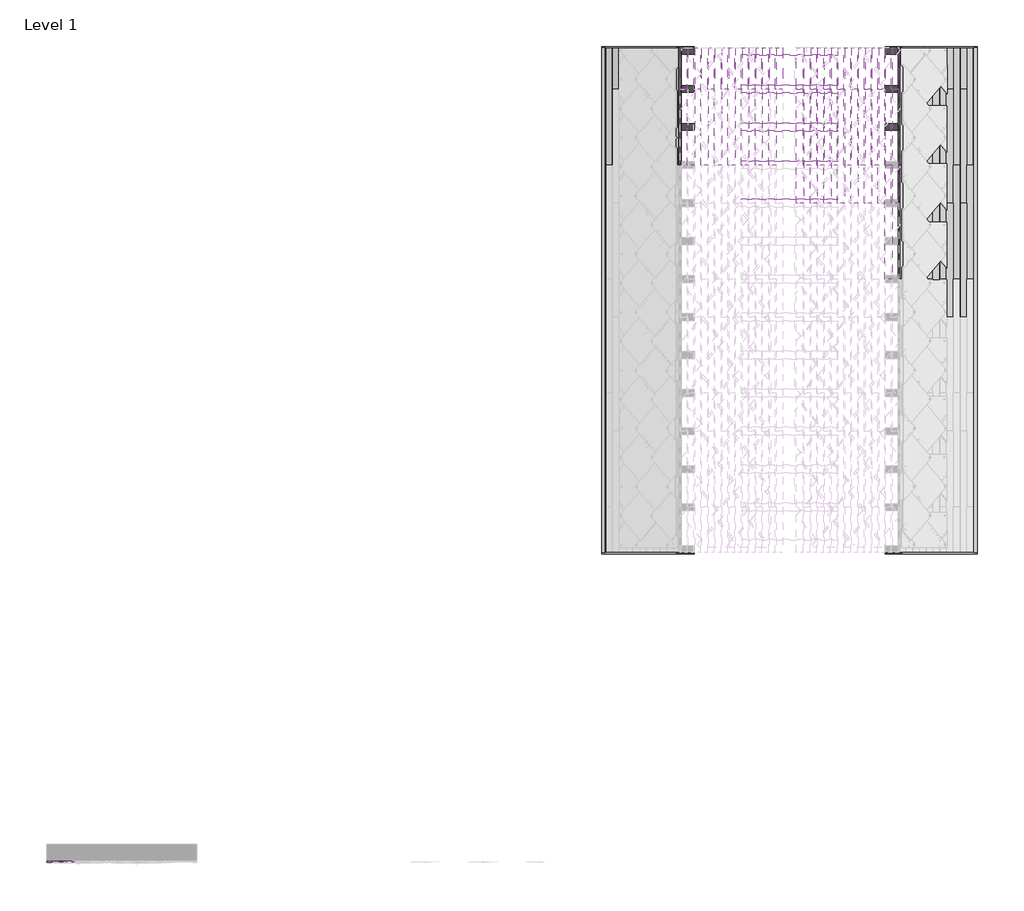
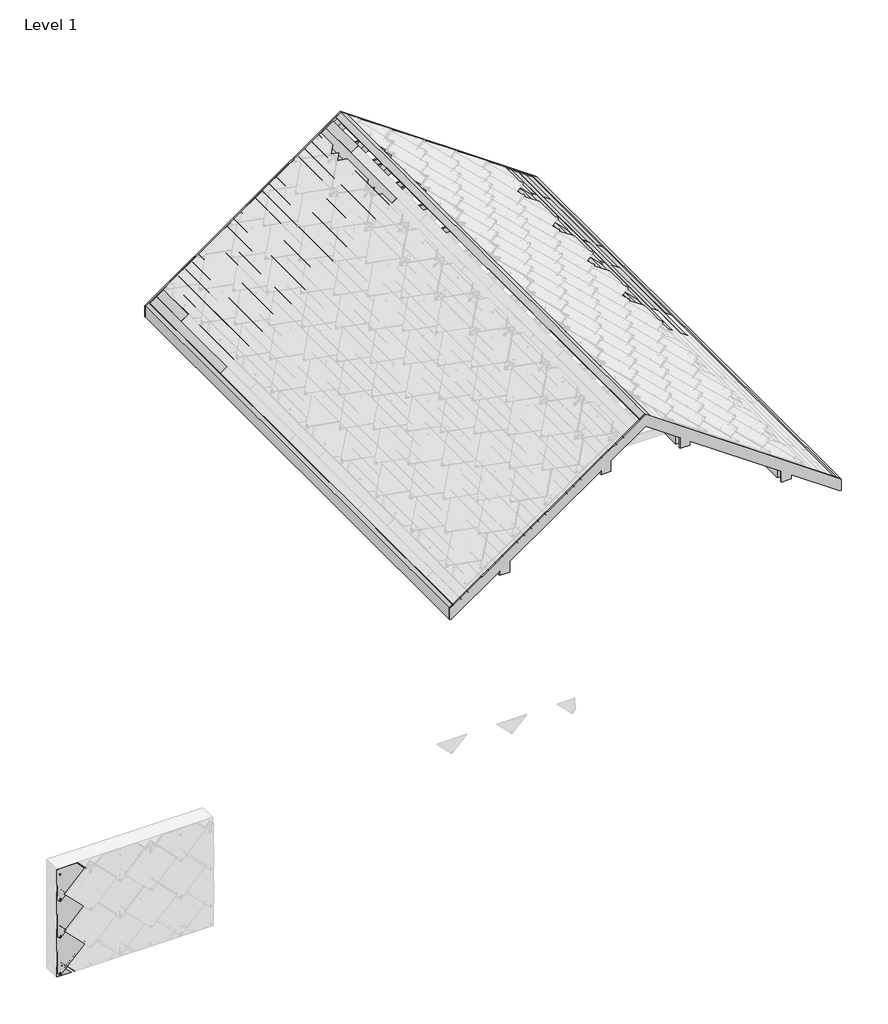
# One storey, part 3 of 6: 99 beams, 4 proxies.
"""IFC4 building model written with IfcOpenShell, lengths in millimetres."""

from ifc_helpers import new_model, si_unit, origin, place, context, project, spatial, transform, mapped, element, save
from components import structural_framing_1_structural_framing_1_4f4e03de, structural_framing_104_structural_framing_15_200a1adf, structural_framing_105_structural_framing_15_bbb8b2a2, structural_framing_150_structural_framing_15_f334a7cf, structural_framing_151_structural_framing_15_911aee75, structural_framing_152_structural_framing_15_fae30983, structural_framing_154_structural_framing_15_ddedf780, structural_framing_156_structural_framing_15_8572bb24, structural_framing_164_structural_framing_15_c8a2bcaa, structural_framing_155_structural_framing_15_fbad98d9, structural_framing_161_structural_framing_15_e03e88da, structural_framing_290_structural_framing_15_fb813978, structural_framing_291_structural_framing_15_41421fa0, structural_framing_293_structural_framing_15_7859e044, structural_framing_294_structural_framing_15_d6bc8154, structural_framing_295_structural_framing_295_6c3cb5e9, structural_framing_296_structural_framing_296_04115515, structural_framing_298_structural_framing_296_1c13a3da, structural_framing_321_structural_framing_321_e100f737, structural_framing_323_structural_framing_323_020c7994, structural_framing_324_structural_framing_323_6074106b, corner_bottom_small_left_black_798ab3c3, corner_top_big_left_black_ba74b52e, roofing_panels_sunstyle_tile_shingle_left_shingle_left_8a958c8d

model = new_model("IFC4")

# Units and contexts
model_context = context("Model", 3, world=origin())
ifc_project = project(units=[si_unit("LENGTHUNIT", "METRE", prefix="MILLI")], contexts=[model_context])

# Site, building, storey
site = spatial("IfcSite", under=ifc_project)
building = spatial("IfcBuilding", under=site)
storey = spatial("IfcBuildingStorey", under=building, Name="Level 1", Elevation=0.0)

# Beams
placement = place(None, origin())
structural_framing_1_structural_framing_1_shape = structural_framing_1_structural_framing_1_4f4e03de(model_context)
element("IfcBeam", 1, ObjectType="Structural Framing 1 : Structural Framing 1", at=placement, inside=storey, context=model_context, shape_type="MappedRepresentation", body=[
    mapped(structural_framing_1_structural_framing_1_shape, transform((57.4878711, 0.0, 0.0), x_axis=(1.0, 0.0, 0.0), y_axis=(0.0, 1.0, 0.0), z_axis=(0.0, 0.0, 1.0))),
])
structural_framing_104_structural_framing_15_shape = structural_framing_104_structural_framing_15_200a1adf(model_context)
element("IfcBeam", 2, ObjectType="Structural Framing 104 : Structural Framing 15", at=placement, inside=storey, context=model_context, shape_type="MappedRepresentation", body=[
    mapped(structural_framing_104_structural_framing_15_shape, transform((-2370.3637404, 0.0, -1700.0), x_axis=(1.0, 0.0, 0.0), y_axis=(0.0, 1.0, 0.0), z_axis=(0.0, 0.0, 1.0))),
])
structural_framing_105_structural_framing_15_shape = structural_framing_105_structural_framing_15_bbb8b2a2(model_context)
element("IfcBeam", 3, ObjectType="Structural Framing 105 : Structural Framing 15", at=placement, inside=storey, context=model_context, shape_type="MappedRepresentation", body=[
    mapped(structural_framing_105_structural_framing_15_shape, transform((-2513.178541, 0.0, -1800.0), x_axis=(1.0, 0.0, 0.0), y_axis=(0.0, 1.0, 0.0), z_axis=(0.0, 0.0, 1.0))),
])
element("IfcBeam", 4, ObjectType="Structural Framing 114 : Structural Framing 15", at=placement, inside=storey, context=model_context, shape_type="MappedRepresentation", body=[
    mapped(structural_framing_104_structural_framing_15_shape, transform((-2655.9933417, 0.0, -1900.0), x_axis=(1.0, 0.0, 0.0), y_axis=(0.0, 1.0, 0.0), z_axis=(0.0, 0.0, 1.0))),
])
element("IfcBeam", 5, ObjectType="Structural Framing 115 : Structural Framing 15", at=placement, inside=storey, context=model_context, shape_type="MappedRepresentation", body=[
    mapped(structural_framing_105_structural_framing_15_shape, transform((-2798.8081424, 0.0, -2000.0), x_axis=(1.0, 0.0, 0.0), y_axis=(0.0, 1.0, 0.0), z_axis=(0.0, 0.0, 1.0))),
])
element("IfcBeam", 6, ObjectType="Structural Framing 124 : Structural Framing 15", at=placement, inside=storey, context=model_context, shape_type="MappedRepresentation", body=[
    mapped(structural_framing_104_structural_framing_15_shape, transform((-2941.622943, 0.0, -2100.0), x_axis=(1.0, 0.0, 0.0), y_axis=(0.0, 1.0, 0.0), z_axis=(0.0, 0.0, 1.0))),
])
element("IfcBeam", 7, ObjectType="Structural Framing 125 : Structural Framing 15", at=placement, inside=storey, context=model_context, shape_type="MappedRepresentation", body=[
    mapped(structural_framing_105_structural_framing_15_shape, transform((-3084.4377437, 0.0, -2200.0), x_axis=(1.0, 0.0, 0.0), y_axis=(0.0, 1.0, 0.0), z_axis=(0.0, 0.0, 1.0))),
])
element("IfcBeam", 8, ObjectType="Structural Framing 134 : Structural Framing 15", at=placement, inside=storey, context=model_context, shape_type="MappedRepresentation", body=[
    mapped(structural_framing_104_structural_framing_15_shape, transform((-3227.2525444, 0.0, -2300.0), x_axis=(1.0, 0.0, 0.0), y_axis=(0.0, 1.0, 0.0), z_axis=(0.0, 0.0, 1.0))),
])
element("IfcBeam", 9, ObjectType="Structural Framing 135 : Structural Framing 15", at=placement, inside=storey, context=model_context, shape_type="MappedRepresentation", body=[
    mapped(structural_framing_105_structural_framing_15_shape, transform((-3370.0673451, 0.0, -2400.0), x_axis=(1.0, 0.0, 0.0), y_axis=(0.0, 1.0, 0.0), z_axis=(0.0, 0.0, 1.0))),
])
element("IfcBeam", 10, ObjectType="Structural Framing 144 : Structural Framing 15", at=placement, inside=storey, context=model_context, shape_type="MappedRepresentation", body=[
    mapped(structural_framing_104_structural_framing_15_shape, transform((-3512.8821457, 0.0, -2500.0), x_axis=(1.0, 0.0, 0.0), y_axis=(0.0, 1.0, 0.0), z_axis=(0.0, 0.0, 1.0))),
])
element("IfcBeam", 11, ObjectType="Structural Framing 145 : Structural Framing 15", at=placement, inside=storey, context=model_context, shape_type="MappedRepresentation", body=[
    mapped(structural_framing_105_structural_framing_15_shape, transform((-3655.6969464, 0.0, -2600.0), x_axis=(1.0, 0.0, 0.0), y_axis=(0.0, 1.0, 0.0), z_axis=(0.0, 0.0, 1.0))),
])
structural_framing_150_structural_framing_15_shape = structural_framing_150_structural_framing_15_f334a7cf(model_context)
element("IfcBeam", 12, ObjectType="Structural Framing 150 : Structural Framing 15", at=placement, inside=storey, context=model_context, shape_type="MappedRepresentation", body=[
    mapped(structural_framing_150_structural_framing_15_shape, transform((57.4878711, 0.0, 0.0), x_axis=(1.0, 0.0, 0.0), y_axis=(0.0, 1.0, 0.0), z_axis=(0.0, 0.0, 1.0))),
])
structural_framing_151_structural_framing_15_shape = structural_framing_151_structural_framing_15_911aee75(model_context)
element("IfcBeam", 13, ObjectType="Structural Framing 151 : Structural Framing 15", at=placement, inside=storey, context=model_context, shape_type="MappedRepresentation", body=[
    mapped(structural_framing_151_structural_framing_15_shape, transform((57.4878711, 2367.5, 0.0), x_axis=(1.0, 0.0, 0.0), y_axis=(0.0, 1.0, 0.0), z_axis=(0.0, 0.0, 1.0))),
])
structural_framing_152_structural_framing_15_shape = structural_framing_152_structural_framing_15_fae30983(model_context)
element("IfcBeam", 14, ObjectType="Structural Framing 152 : Structural Framing 15", at=placement, inside=storey, context=model_context, shape_type="MappedRepresentation", body=[
    mapped(structural_framing_152_structural_framing_15_shape, transform((57.4878711, 4837.5, 0.0), x_axis=(1.0, 0.0, 0.0), y_axis=(0.0, 1.0, 0.0), z_axis=(0.0, 0.0, 1.0))),
])
element("IfcBeam", 15, ObjectType="Structural Framing 153 : Structural Framing 15", at=placement, inside=storey, context=model_context, shape_type="MappedRepresentation", body=[
    mapped(structural_framing_152_structural_framing_15_shape, transform((57.4878711, 7237.5, 0.0), x_axis=(1.0, 0.0, 0.0), y_axis=(0.0, 1.0, 0.0), z_axis=(0.0, 0.0, 1.0))),
])
structural_framing_154_structural_framing_15_shape = structural_framing_154_structural_framing_15_ddedf780(model_context)
element("IfcBeam", 16, ObjectType="Structural Framing 154 : Structural Framing 15", at=placement, inside=storey, context=model_context, shape_type="MappedRepresentation", body=[
    mapped(structural_framing_154_structural_framing_15_shape, transform((57.4878711, 9637.5, 0.0), x_axis=(1.0, 0.0, 0.0), y_axis=(0.0, 1.0, 0.0), z_axis=(0.0, 0.0, 1.0))),
])
structural_framing_156_structural_framing_15_shape = structural_framing_156_structural_framing_15_8572bb24(model_context)
element("IfcBeam", 17, ObjectType="Structural Framing 160 : Structural Framing 15", at=placement, inside=storey, context=model_context, shape_type="MappedRepresentation", body=[
    mapped(structural_framing_156_structural_framing_15_shape, transform((200.3026718, -870.0, -100.0), x_axis=(1.0, 0.0, 0.0), y_axis=(0.0, 1.0, 0.0), z_axis=(0.0, 0.0, 1.0))),
])
structural_framing_164_structural_framing_15_shape = structural_framing_164_structural_framing_15_c8a2bcaa(model_context)
element("IfcBeam", 18, ObjectType="Structural Framing 164 : Structural Framing 15", at=placement, inside=storey, context=model_context, shape_type="MappedRepresentation", body=[
    mapped(structural_framing_164_structural_framing_15_shape, transform((200.3026718, 0.0, -100.0), x_axis=(1.0, 0.0, 0.0), y_axis=(0.0, 1.0, 0.0), z_axis=(0.0, 0.0, 1.0))),
])
structural_framing_155_structural_framing_15_shape = structural_framing_155_structural_framing_15_fbad98d9(model_context)
element("IfcBeam", 19, ObjectType="Structural Framing 165 : Structural Framing 15", at=placement, inside=storey, context=model_context, shape_type="MappedRepresentation", body=[
    mapped(structural_framing_155_structural_framing_15_shape, transform((343.1174725, 0.0, -200.0), x_axis=(1.0, 0.0, 0.0), y_axis=(0.0, 1.0, 0.0), z_axis=(0.0, 0.0, 1.0))),
])
element("IfcBeam", 20, ObjectType="Structural Framing 170 : Structural Framing 15", at=placement, inside=storey, context=model_context, shape_type="MappedRepresentation", body=[
    mapped(structural_framing_156_structural_framing_15_shape, transform((485.9322731, -870.0, -300.0), x_axis=(1.0, 0.0, 0.0), y_axis=(0.0, 1.0, 0.0), z_axis=(0.0, 0.0, 1.0))),
])
element("IfcBeam", 21, ObjectType="Structural Framing 174 : Structural Framing 15", at=placement, inside=storey, context=model_context, shape_type="MappedRepresentation", body=[
    mapped(structural_framing_164_structural_framing_15_shape, transform((485.9322731, 0.0, -300.0), x_axis=(1.0, 0.0, 0.0), y_axis=(0.0, 1.0, 0.0), z_axis=(0.0, 0.0, 1.0))),
])
element("IfcBeam", 22, ObjectType="Structural Framing 175 : Structural Framing 15", at=placement, inside=storey, context=model_context, shape_type="MappedRepresentation", body=[
    mapped(structural_framing_155_structural_framing_15_shape, transform((628.7470738, 0.0, -400.0), x_axis=(1.0, 0.0, 0.0), y_axis=(0.0, 1.0, 0.0), z_axis=(0.0, 0.0, 1.0))),
])
element("IfcBeam", 23, ObjectType="Structural Framing 180 : Structural Framing 15", at=placement, inside=storey, context=model_context, shape_type="MappedRepresentation", body=[
    mapped(structural_framing_156_structural_framing_15_shape, transform((771.5618745, -870.0, -500.0), x_axis=(1.0, 0.0, 0.0), y_axis=(0.0, 1.0, 0.0), z_axis=(0.0, 0.0, 1.0))),
])
element("IfcBeam", 24, ObjectType="Structural Framing 184 : Structural Framing 15", at=placement, inside=storey, context=model_context, shape_type="MappedRepresentation", body=[
    mapped(structural_framing_164_structural_framing_15_shape, transform((771.5618745, 0.0, -500.0), x_axis=(1.0, 0.0, 0.0), y_axis=(0.0, 1.0, 0.0), z_axis=(0.0, 0.0, 1.0))),
])
element("IfcBeam", 25, ObjectType="Structural Framing 185 : Structural Framing 15", at=placement, inside=storey, context=model_context, shape_type="MappedRepresentation", body=[
    mapped(structural_framing_155_structural_framing_15_shape, transform((914.3766752, 0.0, -600.0), x_axis=(1.0, 0.0, 0.0), y_axis=(0.0, 1.0, 0.0), z_axis=(0.0, 0.0, 1.0))),
])
element("IfcBeam", 26, ObjectType="Structural Framing 190 : Structural Framing 15", at=placement, inside=storey, context=model_context, shape_type="MappedRepresentation", body=[
    mapped(structural_framing_156_structural_framing_15_shape, transform((1057.1914758, -870.0, -700.0), x_axis=(1.0, 0.0, 0.0), y_axis=(0.0, 1.0, 0.0), z_axis=(0.0, 0.0, 1.0))),
])
element("IfcBeam", 27, ObjectType="Structural Framing 194 : Structural Framing 15", at=placement, inside=storey, context=model_context, shape_type="MappedRepresentation", body=[
    mapped(structural_framing_164_structural_framing_15_shape, transform((1057.1914758, 0.0, -700.0), x_axis=(1.0, 0.0, 0.0), y_axis=(0.0, 1.0, 0.0), z_axis=(0.0, 0.0, 1.0))),
])
element("IfcBeam", 28, ObjectType="Structural Framing 195 : Structural Framing 15", at=placement, inside=storey, context=model_context, shape_type="MappedRepresentation", body=[
    mapped(structural_framing_155_structural_framing_15_shape, transform((1200.0062765, 0.0, -800.0), x_axis=(1.0, 0.0, 0.0), y_axis=(0.0, 1.0, 0.0), z_axis=(0.0, 0.0, 1.0))),
])
element("IfcBeam", 29, ObjectType="Structural Framing 2 : Structural Framing 1", at=placement, inside=storey, context=model_context, shape_type="MappedRepresentation", body=[
    mapped(structural_framing_1_structural_framing_1_shape, transform((57.4878711, -800.0, 0.0), x_axis=(1.0, 0.0, 0.0), y_axis=(0.0, 1.0, 0.0), z_axis=(0.0, 0.0, 1.0))),
])
element("IfcBeam", 30, ObjectType="Structural Framing 200 : Structural Framing 15", at=placement, inside=storey, context=model_context, shape_type="MappedRepresentation", body=[
    mapped(structural_framing_156_structural_framing_15_shape, transform((1342.8210772, -870.0, -900.0), x_axis=(1.0, 0.0, 0.0), y_axis=(0.0, 1.0, 0.0), z_axis=(0.0, 0.0, 1.0))),
])
element("IfcBeam", 31, ObjectType="Structural Framing 204 : Structural Framing 15", at=placement, inside=storey, context=model_context, shape_type="MappedRepresentation", body=[
    mapped(structural_framing_164_structural_framing_15_shape, transform((1342.8210772, 0.0, -900.0), x_axis=(1.0, 0.0, 0.0), y_axis=(0.0, 1.0, 0.0), z_axis=(0.0, 0.0, 1.0))),
])
element("IfcBeam", 32, ObjectType="Structural Framing 205 : Structural Framing 15", at=placement, inside=storey, context=model_context, shape_type="MappedRepresentation", body=[
    mapped(structural_framing_155_structural_framing_15_shape, transform((1485.6358779, 0.0, -1000.0), x_axis=(1.0, 0.0, 0.0), y_axis=(0.0, 1.0, 0.0), z_axis=(0.0, 0.0, 1.0))),
])
element("IfcBeam", 33, ObjectType="Structural Framing 210 : Structural Framing 15", at=placement, inside=storey, context=model_context, shape_type="MappedRepresentation", body=[
    mapped(structural_framing_156_structural_framing_15_shape, transform((1628.4506785, -870.0, -1100.0), x_axis=(1.0, 0.0, 0.0), y_axis=(0.0, 1.0, 0.0), z_axis=(0.0, 0.0, 1.0))),
])
element("IfcBeam", 34, ObjectType="Structural Framing 214 : Structural Framing 15", at=placement, inside=storey, context=model_context, shape_type="MappedRepresentation", body=[
    mapped(structural_framing_164_structural_framing_15_shape, transform((1628.4506785, 0.0, -1100.0), x_axis=(1.0, 0.0, 0.0), y_axis=(0.0, 1.0, 0.0), z_axis=(0.0, 0.0, 1.0))),
])
element("IfcBeam", 35, ObjectType="Structural Framing 215 : Structural Framing 15", at=placement, inside=storey, context=model_context, shape_type="MappedRepresentation", body=[
    mapped(structural_framing_155_structural_framing_15_shape, transform((1771.2654792, 0.0, -1200.0), x_axis=(1.0, 0.0, 0.0), y_axis=(0.0, 1.0, 0.0), z_axis=(0.0, 0.0, 1.0))),
])
element("IfcBeam", 36, ObjectType="Structural Framing 220 : Structural Framing 15", at=placement, inside=storey, context=model_context, shape_type="MappedRepresentation", body=[
    mapped(structural_framing_156_structural_framing_15_shape, transform((1914.0802799, -870.0, -1300.0), x_axis=(1.0, 0.0, 0.0), y_axis=(0.0, 1.0, 0.0), z_axis=(0.0, 0.0, 1.0))),
])
element("IfcBeam", 37, ObjectType="Structural Framing 224 : Structural Framing 15", at=placement, inside=storey, context=model_context, shape_type="MappedRepresentation", body=[
    mapped(structural_framing_164_structural_framing_15_shape, transform((1914.0802799, 0.0, -1300.0), x_axis=(1.0, 0.0, 0.0), y_axis=(0.0, 1.0, 0.0), z_axis=(0.0, 0.0, 1.0))),
])
element("IfcBeam", 38, ObjectType="Structural Framing 225 : Structural Framing 15", at=placement, inside=storey, context=model_context, shape_type="MappedRepresentation", body=[
    mapped(structural_framing_155_structural_framing_15_shape, transform((2056.8950805, 0.0, -1400.0), x_axis=(1.0, 0.0, 0.0), y_axis=(0.0, 1.0, 0.0), z_axis=(0.0, 0.0, 1.0))),
])
element("IfcBeam", 39, ObjectType="Structural Framing 226 : Structural Framing 15", at=placement, inside=storey, context=model_context, shape_type="MappedRepresentation", body=[
    mapped(structural_framing_156_structural_framing_15_shape, transform((2056.8950805, -2470.0, -1400.0), x_axis=(1.0, 0.0, 0.0), y_axis=(0.0, 1.0, 0.0), z_axis=(0.0, 0.0, 1.0))),
])
element("IfcBeam", 40, ObjectType="Structural Framing 230 : Structural Framing 15", at=placement, inside=storey, context=model_context, shape_type="MappedRepresentation", body=[
    mapped(structural_framing_156_structural_framing_15_shape, transform((2199.7098812, -870.0, -1500.0), x_axis=(1.0, 0.0, 0.0), y_axis=(0.0, 1.0, 0.0), z_axis=(0.0, 0.0, 1.0))),
])
element("IfcBeam", 41, ObjectType="Structural Framing 234 : Structural Framing 15", at=placement, inside=storey, context=model_context, shape_type="MappedRepresentation", body=[
    mapped(structural_framing_164_structural_framing_15_shape, transform((2199.7098812, 0.0, -1500.0), x_axis=(1.0, 0.0, 0.0), y_axis=(0.0, 1.0, 0.0), z_axis=(0.0, 0.0, 1.0))),
])
element("IfcBeam", 42, ObjectType="Structural Framing 235 : Structural Framing 15", at=placement, inside=storey, context=model_context, shape_type="MappedRepresentation", body=[
    mapped(structural_framing_155_structural_framing_15_shape, transform((2342.5246819, 0.0, -1600.0), x_axis=(1.0, 0.0, 0.0), y_axis=(0.0, 1.0, 0.0), z_axis=(0.0, 0.0, 1.0))),
])
element("IfcBeam", 43, ObjectType="Structural Framing 236 : Structural Framing 15", at=placement, inside=storey, context=model_context, shape_type="MappedRepresentation", body=[
    mapped(structural_framing_156_structural_framing_15_shape, transform((2342.5246819, -2470.0, -1600.0), x_axis=(1.0, 0.0, 0.0), y_axis=(0.0, 1.0, 0.0), z_axis=(0.0, 0.0, 1.0))),
])
element("IfcBeam", 44, ObjectType="Structural Framing 24 : Structural Framing 15", at=placement, inside=storey, context=model_context, shape_type="MappedRepresentation", body=[
    mapped(structural_framing_104_structural_framing_15_shape, transform((-85.3269296, 0.0, -100.0), x_axis=(1.0, 0.0, 0.0), y_axis=(0.0, 1.0, 0.0), z_axis=(0.0, 0.0, 1.0))),
])
element("IfcBeam", 45, ObjectType="Structural Framing 240 : Structural Framing 15", at=placement, inside=storey, context=model_context, shape_type="MappedRepresentation", body=[
    mapped(structural_framing_156_structural_framing_15_shape, transform((2485.3394826, -870.0, -1700.0), x_axis=(1.0, 0.0, 0.0), y_axis=(0.0, 1.0, 0.0), z_axis=(0.0, 0.0, 1.0))),
])
element("IfcBeam", 46, ObjectType="Structural Framing 244 : Structural Framing 15", at=placement, inside=storey, context=model_context, shape_type="MappedRepresentation", body=[
    mapped(structural_framing_164_structural_framing_15_shape, transform((2485.3394826, 0.0, -1700.0), x_axis=(1.0, 0.0, 0.0), y_axis=(0.0, 1.0, 0.0), z_axis=(0.0, 0.0, 1.0))),
])
element("IfcBeam", 47, ObjectType="Structural Framing 245 : Structural Framing 15", at=placement, inside=storey, context=model_context, shape_type="MappedRepresentation", body=[
    mapped(structural_framing_155_structural_framing_15_shape, transform((2628.1542832, 0.0, -1800.0), x_axis=(1.0, 0.0, 0.0), y_axis=(0.0, 1.0, 0.0), z_axis=(0.0, 0.0, 1.0))),
])
element("IfcBeam", 48, ObjectType="Structural Framing 246 : Structural Framing 15", at=placement, inside=storey, context=model_context, shape_type="MappedRepresentation", body=[
    mapped(structural_framing_156_structural_framing_15_shape, transform((2628.1542832, -2470.0, -1800.0), x_axis=(1.0, 0.0, 0.0), y_axis=(0.0, 1.0, 0.0), z_axis=(0.0, 0.0, 1.0))),
])
element("IfcBeam", 49, ObjectType="Structural Framing 25 : Structural Framing 15", at=placement, inside=storey, context=model_context, shape_type="MappedRepresentation", body=[
    mapped(structural_framing_105_structural_framing_15_shape, transform((-228.1417302, 0.0, -200.0), x_axis=(1.0, 0.0, 0.0), y_axis=(0.0, 1.0, 0.0), z_axis=(0.0, 0.0, 1.0))),
])
element("IfcBeam", 50, ObjectType="Structural Framing 250 : Structural Framing 15", at=placement, inside=storey, context=model_context, shape_type="MappedRepresentation", body=[
    mapped(structural_framing_156_structural_framing_15_shape, transform((2770.9690839, -870.0, -1900.0), x_axis=(1.0, 0.0, 0.0), y_axis=(0.0, 1.0, 0.0), z_axis=(0.0, 0.0, 1.0))),
])
element("IfcBeam", 51, ObjectType="Structural Framing 254 : Structural Framing 15", at=placement, inside=storey, context=model_context, shape_type="MappedRepresentation", body=[
    mapped(structural_framing_164_structural_framing_15_shape, transform((2770.9690839, 0.0, -1900.0), x_axis=(1.0, 0.0, 0.0), y_axis=(0.0, 1.0, 0.0), z_axis=(0.0, 0.0, 1.0))),
])
element("IfcBeam", 52, ObjectType="Structural Framing 255 : Structural Framing 15", at=placement, inside=storey, context=model_context, shape_type="MappedRepresentation", body=[
    mapped(structural_framing_155_structural_framing_15_shape, transform((2913.7838846, 0.0, -2000.0), x_axis=(1.0, 0.0, 0.0), y_axis=(0.0, 1.0, 0.0), z_axis=(0.0, 0.0, 1.0))),
])
element("IfcBeam", 53, ObjectType="Structural Framing 256 : Structural Framing 15", at=placement, inside=storey, context=model_context, shape_type="MappedRepresentation", body=[
    mapped(structural_framing_156_structural_framing_15_shape, transform((2913.7838846, -2470.0, -2000.0), x_axis=(1.0, 0.0, 0.0), y_axis=(0.0, 1.0, 0.0), z_axis=(0.0, 0.0, 1.0))),
])
element("IfcBeam", 54, ObjectType="Structural Framing 260 : Structural Framing 15", at=placement, inside=storey, context=model_context, shape_type="MappedRepresentation", body=[
    mapped(structural_framing_156_structural_framing_15_shape, transform((3056.5986853, -870.0, -2100.0), x_axis=(1.0, 0.0, 0.0), y_axis=(0.0, 1.0, 0.0), z_axis=(0.0, 0.0, 1.0))),
])
structural_framing_161_structural_framing_15_shape = structural_framing_161_structural_framing_15_e03e88da(model_context)
element("IfcBeam", 55, ObjectType="Structural Framing 261 : Structural Framing 15", at=placement, inside=storey, context=model_context, shape_type="MappedRepresentation", body=[
    mapped(structural_framing_161_structural_framing_15_shape, transform((3056.5986853, -3340.0, -2100.0), x_axis=(1.0, 0.0, 0.0), y_axis=(0.0, 1.0, 0.0), z_axis=(0.0, 0.0, 1.0))),
])
element("IfcBeam", 56, ObjectType="Structural Framing 264 : Structural Framing 15", at=placement, inside=storey, context=model_context, shape_type="MappedRepresentation", body=[
    mapped(structural_framing_164_structural_framing_15_shape, transform((3056.5986853, 0.0, -2100.0), x_axis=(1.0, 0.0, 0.0), y_axis=(0.0, 1.0, 0.0), z_axis=(0.0, 0.0, 1.0))),
])
element("IfcBeam", 57, ObjectType="Structural Framing 265 : Structural Framing 15", at=placement, inside=storey, context=model_context, shape_type="MappedRepresentation", body=[
    mapped(structural_framing_155_structural_framing_15_shape, transform((3199.4134859, 0.0, -2200.0), x_axis=(1.0, 0.0, 0.0), y_axis=(0.0, 1.0, 0.0), z_axis=(0.0, 0.0, 1.0))),
])
element("IfcBeam", 58, ObjectType="Structural Framing 266 : Structural Framing 15", at=placement, inside=storey, context=model_context, shape_type="MappedRepresentation", body=[
    mapped(structural_framing_156_structural_framing_15_shape, transform((3199.4134859, -2470.0, -2200.0), x_axis=(1.0, 0.0, 0.0), y_axis=(0.0, 1.0, 0.0), z_axis=(0.0, 0.0, 1.0))),
])
element("IfcBeam", 59, ObjectType="Structural Framing 270 : Structural Framing 15", at=placement, inside=storey, context=model_context, shape_type="MappedRepresentation", body=[
    mapped(structural_framing_156_structural_framing_15_shape, transform((3342.2282866, -870.0, -2300.0), x_axis=(1.0, 0.0, 0.0), y_axis=(0.0, 1.0, 0.0), z_axis=(0.0, 0.0, 1.0))),
])
element("IfcBeam", 60, ObjectType="Structural Framing 271 : Structural Framing 15", at=placement, inside=storey, context=model_context, shape_type="MappedRepresentation", body=[
    mapped(structural_framing_161_structural_framing_15_shape, transform((3342.2282866, -3340.0, -2300.0), x_axis=(1.0, 0.0, 0.0), y_axis=(0.0, 1.0, 0.0), z_axis=(0.0, 0.0, 1.0))),
])
element("IfcBeam", 61, ObjectType="Structural Framing 274 : Structural Framing 15", at=placement, inside=storey, context=model_context, shape_type="MappedRepresentation", body=[
    mapped(structural_framing_164_structural_framing_15_shape, transform((3342.2282866, 0.0, -2300.0), x_axis=(1.0, 0.0, 0.0), y_axis=(0.0, 1.0, 0.0), z_axis=(0.0, 0.0, 1.0))),
])
element("IfcBeam", 62, ObjectType="Structural Framing 275 : Structural Framing 15", at=placement, inside=storey, context=model_context, shape_type="MappedRepresentation", body=[
    mapped(structural_framing_155_structural_framing_15_shape, transform((3485.0430873, 0.0, -2400.0), x_axis=(1.0, 0.0, 0.0), y_axis=(0.0, 1.0, 0.0), z_axis=(0.0, 0.0, 1.0))),
])
element("IfcBeam", 63, ObjectType="Structural Framing 276 : Structural Framing 15", at=placement, inside=storey, context=model_context, shape_type="MappedRepresentation", body=[
    mapped(structural_framing_156_structural_framing_15_shape, transform((3485.0430873, -2470.0, -2400.0), x_axis=(1.0, 0.0, 0.0), y_axis=(0.0, 1.0, 0.0), z_axis=(0.0, 0.0, 1.0))),
])
element("IfcBeam", 64, ObjectType="Structural Framing 280 : Structural Framing 15", at=placement, inside=storey, context=model_context, shape_type="MappedRepresentation", body=[
    mapped(structural_framing_156_structural_framing_15_shape, transform((3627.857888, -870.0, -2500.0), x_axis=(1.0, 0.0, 0.0), y_axis=(0.0, 1.0, 0.0), z_axis=(0.0, 0.0, 1.0))),
])
element("IfcBeam", 65, ObjectType="Structural Framing 281 : Structural Framing 15", at=placement, inside=storey, context=model_context, shape_type="MappedRepresentation", body=[
    mapped(structural_framing_161_structural_framing_15_shape, transform((3627.857888, -3340.0, -2500.0), x_axis=(1.0, 0.0, 0.0), y_axis=(0.0, 1.0, 0.0), z_axis=(0.0, 0.0, 1.0))),
])
element("IfcBeam", 66, ObjectType="Structural Framing 284 : Structural Framing 15", at=placement, inside=storey, context=model_context, shape_type="MappedRepresentation", body=[
    mapped(structural_framing_164_structural_framing_15_shape, transform((3627.857888, 0.0, -2500.0), x_axis=(1.0, 0.0, 0.0), y_axis=(0.0, 1.0, 0.0), z_axis=(0.0, 0.0, 1.0))),
])
element("IfcBeam", 67, ObjectType="Structural Framing 285 : Structural Framing 15", at=placement, inside=storey, context=model_context, shape_type="MappedRepresentation", body=[
    mapped(structural_framing_155_structural_framing_15_shape, transform((3770.6726886, 0.0, -2600.0), x_axis=(1.0, 0.0, 0.0), y_axis=(0.0, 1.0, 0.0), z_axis=(0.0, 0.0, 1.0))),
])
element("IfcBeam", 68, ObjectType="Structural Framing 286 : Structural Framing 15", at=placement, inside=storey, context=model_context, shape_type="MappedRepresentation", body=[
    mapped(structural_framing_156_structural_framing_15_shape, transform((3770.6726886, -2470.0, -2600.0), x_axis=(1.0, 0.0, 0.0), y_axis=(0.0, 1.0, 0.0), z_axis=(0.0, 0.0, 1.0))),
])
structural_framing_290_structural_framing_15_shape = structural_framing_290_structural_framing_15_fb813978(model_context)
element("IfcBeam", 69, ObjectType="Structural Framing 290 : Structural Framing 15", at=placement, inside=storey, context=model_context, shape_type="MappedRepresentation", body=[
    mapped(structural_framing_290_structural_framing_15_shape, transform((57.4878711, 2367.5, 0.0), x_axis=(1.0, 0.0, 0.0), y_axis=(0.0, 1.0, 0.0), z_axis=(0.0, 0.0, 1.0))),
])
structural_framing_291_structural_framing_15_shape = structural_framing_291_structural_framing_15_41421fa0(model_context)
element("IfcBeam", 70, ObjectType="Structural Framing 291 : Structural Framing 15", at=placement, inside=storey, context=model_context, shape_type="MappedRepresentation", body=[
    mapped(structural_framing_291_structural_framing_15_shape, transform((57.4878711, 4837.5, 0.0), x_axis=(1.0, 0.0, 0.0), y_axis=(0.0, 1.0, 0.0), z_axis=(0.0, 0.0, 1.0))),
])
element("IfcBeam", 71, ObjectType="Structural Framing 292 : Structural Framing 15", at=placement, inside=storey, context=model_context, shape_type="MappedRepresentation", body=[
    mapped(structural_framing_291_structural_framing_15_shape, transform((57.4878711, 7237.5, 0.0), x_axis=(1.0, 0.0, 0.0), y_axis=(0.0, 1.0, 0.0), z_axis=(0.0, 0.0, 1.0))),
])
structural_framing_293_structural_framing_15_shape = structural_framing_293_structural_framing_15_7859e044(model_context)
element("IfcBeam", 72, ObjectType="Structural Framing 293 : Structural Framing 15", at=placement, inside=storey, context=model_context, shape_type="MappedRepresentation", body=[
    mapped(structural_framing_293_structural_framing_15_shape, transform((57.4878711, 0.0, 0.0), x_axis=(1.0, 0.0, 0.0), y_axis=(0.0, 1.0, 0.0), z_axis=(0.0, 0.0, 1.0))),
])
structural_framing_294_structural_framing_15_shape = structural_framing_294_structural_framing_15_d6bc8154(model_context)
element("IfcBeam", 73, ObjectType="Structural Framing 294 : Structural Framing 15", at=placement, inside=storey, context=model_context, shape_type="MappedRepresentation", body=[
    mapped(structural_framing_294_structural_framing_15_shape, transform((57.4878711, 9637.5, 0.0), x_axis=(1.0, 0.0, 0.0), y_axis=(0.0, 1.0, 0.0), z_axis=(0.0, 0.0, 1.0))),
])
structural_framing_295_structural_framing_295_shape = structural_framing_295_structural_framing_295_6c3cb5e9(model_context)
element("IfcBeam", 74, ObjectType="Structural Framing 295 : Structural Framing 295", at=placement, inside=storey, context=model_context, shape_type="MappedRepresentation", body=[
    mapped(structural_framing_295_structural_framing_295_shape, transform((57.4878711, 0.0, 0.0), x_axis=(1.0, 0.0, 0.0), y_axis=(0.0, 1.0, 0.0), z_axis=(0.0, 0.0, 1.0))),
])
structural_framing_296_structural_framing_296_shape = structural_framing_296_structural_framing_296_04115515(model_context)
element("IfcBeam", 75, ObjectType="Structural Framing 296 : Structural Framing 296", at=placement, inside=storey, context=model_context, shape_type="MappedRepresentation", body=[
    mapped(structural_framing_296_structural_framing_296_shape, transform((57.4878711, 0.0, 0.0), x_axis=(1.0, 0.0, 0.0), y_axis=(0.0, 1.0, 0.0), z_axis=(0.0, 0.0, 1.0))),
])
element("IfcBeam", 76, ObjectType="Structural Framing 297 : Structural Framing 296", at=placement, inside=storey, context=model_context, shape_type="MappedRepresentation", body=[
    mapped(structural_framing_296_structural_framing_296_shape, transform((57.4878711, -800.0, 0.0), x_axis=(1.0, 0.0, 0.0), y_axis=(0.0, 1.0, 0.0), z_axis=(0.0, 0.0, 1.0))),
])
structural_framing_298_structural_framing_296_shape = structural_framing_298_structural_framing_296_1c13a3da(model_context)
element("IfcBeam", 77, ObjectType="Structural Framing 298 : Structural Framing 296", at=placement, inside=storey, context=model_context, shape_type="MappedRepresentation", body=[
    mapped(structural_framing_298_structural_framing_296_shape, transform((57.4878711, 800.0, 0.0), x_axis=(1.0, 0.0, 0.0), y_axis=(0.0, 1.0, 0.0), z_axis=(0.0, 0.0, 1.0))),
])
element("IfcBeam", 78, ObjectType="Structural Framing 299 : Structural Framing 296", at=placement, inside=storey, context=model_context, shape_type="MappedRepresentation", body=[
    mapped(structural_framing_296_structural_framing_296_shape, transform((57.4878711, -1600.0, 0.0), x_axis=(1.0, 0.0, 0.0), y_axis=(0.0, 1.0, 0.0), z_axis=(0.0, 0.0, 1.0))),
])
element("IfcBeam", 79, ObjectType="Structural Framing 3 : Structural Framing 1", at=placement, inside=storey, context=model_context, shape_type="MappedRepresentation", body=[
    mapped(structural_framing_1_structural_framing_1_shape, transform((57.4878711, -1600.0, 0.0), x_axis=(1.0, 0.0, 0.0), y_axis=(0.0, 1.0, 0.0), z_axis=(0.0, 0.0, 1.0))),
])
element("IfcBeam", 80, ObjectType="Structural Framing 300 : Structural Framing 296", at=placement, inside=storey, context=model_context, shape_type="MappedRepresentation", body=[
    mapped(structural_framing_298_structural_framing_296_shape, transform((57.4878711, 0.0, 0.0), x_axis=(1.0, 0.0, 0.0), y_axis=(0.0, 1.0, 0.0), z_axis=(0.0, 0.0, 1.0))),
])
element("IfcBeam", 81, ObjectType="Structural Framing 302 : Structural Framing 296", at=placement, inside=storey, context=model_context, shape_type="MappedRepresentation", body=[
    mapped(structural_framing_298_structural_framing_296_shape, transform((57.4878711, -800.0, 0.0), x_axis=(1.0, 0.0, 0.0), y_axis=(0.0, 1.0, 0.0), z_axis=(0.0, 0.0, 1.0))),
])
element("IfcBeam", 82, ObjectType="Structural Framing 304 : Structural Framing 296", at=placement, inside=storey, context=model_context, shape_type="MappedRepresentation", body=[
    mapped(structural_framing_298_structural_framing_296_shape, transform((57.4878711, -1600.0, 0.0), x_axis=(1.0, 0.0, 0.0), y_axis=(0.0, 1.0, 0.0), z_axis=(0.0, 0.0, 1.0))),
])
structural_framing_321_structural_framing_321_shape = structural_framing_321_structural_framing_321_e100f737(model_context)
element("IfcBeam", 83, ObjectType="Structural Framing 321 : Structural Framing 321", at=placement, inside=storey, context=model_context, shape_type="MappedRepresentation", body=[
    mapped(structural_framing_321_structural_framing_321_shape, transform((0.0, 0.0, 0.0), x_axis=(1.0, 0.0, 0.0), y_axis=(0.0, 1.0, 0.0), z_axis=(0.0, 0.0, 1.0))),
])
structural_framing_323_structural_framing_323_shape = structural_framing_323_structural_framing_323_020c7994(model_context)
element("IfcBeam", 84, ObjectType="Structural Framing 323 : Structural Framing 323", at=placement, inside=storey, context=model_context, shape_type="MappedRepresentation", body=[
    mapped(structural_framing_323_structural_framing_323_shape, transform((0.0, 0.0, 0.0), x_axis=(1.0, 0.0, 0.0), y_axis=(0.0, 1.0, 0.0), z_axis=(0.0, 0.0, 1.0))),
])
structural_framing_324_structural_framing_323_shape = structural_framing_324_structural_framing_323_6074106b(model_context)
element("IfcBeam", 85, ObjectType="Structural Framing 324 : Structural Framing 323", at=placement, inside=storey, context=model_context, shape_type="MappedRepresentation", body=[
    mapped(structural_framing_324_structural_framing_323_shape, transform((57.4878711, 0.0, 0.0), x_axis=(1.0, 0.0, 0.0), y_axis=(0.0, 1.0, 0.0), z_axis=(0.0, 0.0, 1.0))),
])
element("IfcBeam", 86, ObjectType="Structural Framing 34 : Structural Framing 15", at=placement, inside=storey, context=model_context, shape_type="MappedRepresentation", body=[
    mapped(structural_framing_104_structural_framing_15_shape, transform((-370.9565309, 0.0, -300.0), x_axis=(1.0, 0.0, 0.0), y_axis=(0.0, 1.0, 0.0), z_axis=(0.0, 0.0, 1.0))),
])
element("IfcBeam", 87, ObjectType="Structural Framing 35 : Structural Framing 15", at=placement, inside=storey, context=model_context, shape_type="MappedRepresentation", body=[
    mapped(structural_framing_105_structural_framing_15_shape, transform((-513.7713316, 0.0, -400.0), x_axis=(1.0, 0.0, 0.0), y_axis=(0.0, 1.0, 0.0), z_axis=(0.0, 0.0, 1.0))),
])
element("IfcBeam", 88, ObjectType="Structural Framing 44 : Structural Framing 15", at=placement, inside=storey, context=model_context, shape_type="MappedRepresentation", body=[
    mapped(structural_framing_104_structural_framing_15_shape, transform((-656.5861323, 0.0, -500.0), x_axis=(1.0, 0.0, 0.0), y_axis=(0.0, 1.0, 0.0), z_axis=(0.0, 0.0, 1.0))),
])
element("IfcBeam", 89, ObjectType="Structural Framing 45 : Structural Framing 15", at=placement, inside=storey, context=model_context, shape_type="MappedRepresentation", body=[
    mapped(structural_framing_105_structural_framing_15_shape, transform((-799.4009329, 0.0, -600.0), x_axis=(1.0, 0.0, 0.0), y_axis=(0.0, 1.0, 0.0), z_axis=(0.0, 0.0, 1.0))),
])
element("IfcBeam", 90, ObjectType="Structural Framing 54 : Structural Framing 15", at=placement, inside=storey, context=model_context, shape_type="MappedRepresentation", body=[
    mapped(structural_framing_104_structural_framing_15_shape, transform((-942.2157336, 0.0, -700.0), x_axis=(1.0, 0.0, 0.0), y_axis=(0.0, 1.0, 0.0), z_axis=(0.0, 0.0, 1.0))),
])
element("IfcBeam", 91, ObjectType="Structural Framing 55 : Structural Framing 15", at=placement, inside=storey, context=model_context, shape_type="MappedRepresentation", body=[
    mapped(structural_framing_105_structural_framing_15_shape, transform((-1085.0305343, 0.0, -800.0), x_axis=(1.0, 0.0, 0.0), y_axis=(0.0, 1.0, 0.0), z_axis=(0.0, 0.0, 1.0))),
])
element("IfcBeam", 92, ObjectType="Structural Framing 64 : Structural Framing 15", at=placement, inside=storey, context=model_context, shape_type="MappedRepresentation", body=[
    mapped(structural_framing_104_structural_framing_15_shape, transform((-1227.845335, 0.0, -900.0), x_axis=(1.0, 0.0, 0.0), y_axis=(0.0, 1.0, 0.0), z_axis=(0.0, 0.0, 1.0))),
])
element("IfcBeam", 93, ObjectType="Structural Framing 65 : Structural Framing 15", at=placement, inside=storey, context=model_context, shape_type="MappedRepresentation", body=[
    mapped(structural_framing_105_structural_framing_15_shape, transform((-1370.6601356, 0.0, -1000.0), x_axis=(1.0, 0.0, 0.0), y_axis=(0.0, 1.0, 0.0), z_axis=(0.0, 0.0, 1.0))),
])
element("IfcBeam", 94, ObjectType="Structural Framing 74 : Structural Framing 15", at=placement, inside=storey, context=model_context, shape_type="MappedRepresentation", body=[
    mapped(structural_framing_104_structural_framing_15_shape, transform((-1513.4749363, 0.0, -1100.0), x_axis=(1.0, 0.0, 0.0), y_axis=(0.0, 1.0, 0.0), z_axis=(0.0, 0.0, 1.0))),
])
element("IfcBeam", 95, ObjectType="Structural Framing 75 : Structural Framing 15", at=placement, inside=storey, context=model_context, shape_type="MappedRepresentation", body=[
    mapped(structural_framing_105_structural_framing_15_shape, transform((-1656.289737, 0.0, -1200.0), x_axis=(1.0, 0.0, 0.0), y_axis=(0.0, 1.0, 0.0), z_axis=(0.0, 0.0, 1.0))),
])
element("IfcBeam", 96, ObjectType="Structural Framing 84 : Structural Framing 15", at=placement, inside=storey, context=model_context, shape_type="MappedRepresentation", body=[
    mapped(structural_framing_104_structural_framing_15_shape, transform((-1799.1045377, 0.0, -1300.0), x_axis=(1.0, 0.0, 0.0), y_axis=(0.0, 1.0, 0.0), z_axis=(0.0, 0.0, 1.0))),
])
element("IfcBeam", 97, ObjectType="Structural Framing 85 : Structural Framing 15", at=placement, inside=storey, context=model_context, shape_type="MappedRepresentation", body=[
    mapped(structural_framing_105_structural_framing_15_shape, transform((-1941.9193383, 0.0, -1400.0), x_axis=(1.0, 0.0, 0.0), y_axis=(0.0, 1.0, 0.0), z_axis=(0.0, 0.0, 1.0))),
])
element("IfcBeam", 98, ObjectType="Structural Framing 94 : Structural Framing 15", at=placement, inside=storey, context=model_context, shape_type="MappedRepresentation", body=[
    mapped(structural_framing_104_structural_framing_15_shape, transform((-2084.734139, 0.0, -1500.0), x_axis=(1.0, 0.0, 0.0), y_axis=(0.0, 1.0, 0.0), z_axis=(0.0, 0.0, 1.0))),
])
element("IfcBeam", 99, ObjectType="Structural Framing 95 : Structural Framing 15", at=placement, inside=storey, context=model_context, shape_type="MappedRepresentation", body=[
    mapped(structural_framing_105_structural_framing_15_shape, transform((-2227.5489397, 0.0, -1600.0), x_axis=(1.0, 0.0, 0.0), y_axis=(0.0, 1.0, 0.0), z_axis=(0.0, 0.0, 1.0))),
])

# Proxies
corner_bottom_small_left_black_shape = corner_bottom_small_left_black_798ab3c3(model_context)
element("IfcBuildingElementProxy", 100, Name="Roofing_Panels_SunStyle_Tile_Corner-Bottom-Small-Left : Corner Bottom Small Left - Terracotta", ObjectType="Roofing_Panels_SunStyle_Tile_Corner-Bottom-Small-Left : Corner Bottom Small Left - Terracotta", at=placement, inside=storey, context=model_context, shape_type="MappedRepresentation", body=[
    mapped(corner_bottom_small_left_black_shape, transform((-14307.7909552, -13191.8736519, -67.0218954), x_axis=(1.0, 0.0, 0.0), y_axis=(0.0, 0.0, 1.0), z_axis=(0.0, -1.0, 0.0))),
])
corner_top_big_left_black_shape = corner_top_big_left_black_ba74b52e(model_context)
element("IfcBuildingElementProxy", 101, Name="Roofing_Panels_SunStyle_Tile_Corner-Top-Big-Left : Corner Top Big Left - Terracotta", ObjectType="Roofing_Panels_SunStyle_Tile_Corner-Top-Big-Left : Corner Top Big Left - Terracotta", at=placement, inside=storey, context=model_context, shape_type="MappedRepresentation", body=[
    mapped(corner_top_big_left_black_shape, transform((-14307.7909552, -13191.8736519, 2456.5475767), x_axis=(1.0, 0.0, 0.0), y_axis=(0.0, 0.0, 1.0), z_axis=(0.0, -1.0, 0.0))),
])
roofing_panels_sunstyle_tile_shingle_left_shingle_left_shape = roofing_panels_sunstyle_tile_shingle_left_shingle_left_8a958c8d(model_context)
element("IfcBuildingElementProxy", 102, Name="Roofing_Panels_SunStyle_Tile_Shingle-Left : Shingle Left - Terracotta", ObjectType="Roofing_Panels_SunStyle_Tile_Shingle-Left : Shingle Left - Terracotta", at=placement, inside=storey, context=model_context, shape_type="MappedRepresentation", body=[
    mapped(roofing_panels_sunstyle_tile_shingle_left_shingle_left_shape, transform((-14307.7909552, -13191.8736519, 1581.2267543), x_axis=(1.0, 0.0, 0.0), y_axis=(0.0, 0.0, 1.0), z_axis=(0.0, -1.0, 0.0))),
])
element("IfcBuildingElementProxy", 103, Name="Roofing_Panels_SunStyle_Tile_Shingle-Left : Shingle Left - Terracotta", ObjectType="Roofing_Panels_SunStyle_Tile_Shingle-Left : Shingle Left - Terracotta", at=placement, inside=storey, context=model_context, shape_type="MappedRepresentation", body=[
    mapped(roofing_panels_sunstyle_tile_shingle_left_shingle_left_shape, transform((-14307.7909552, -13191.8736519, 793.6311293), x_axis=(1.0, 0.0, 0.0), y_axis=(0.0, 0.0, 1.0), z_axis=(0.0, -1.0, 0.0))),
])

save(model, "model.ifc")
